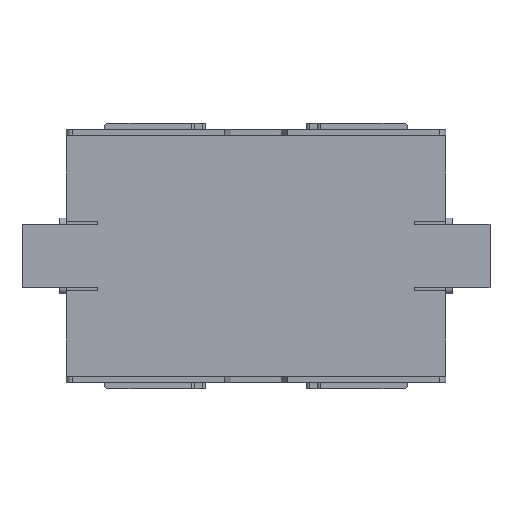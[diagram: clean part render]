
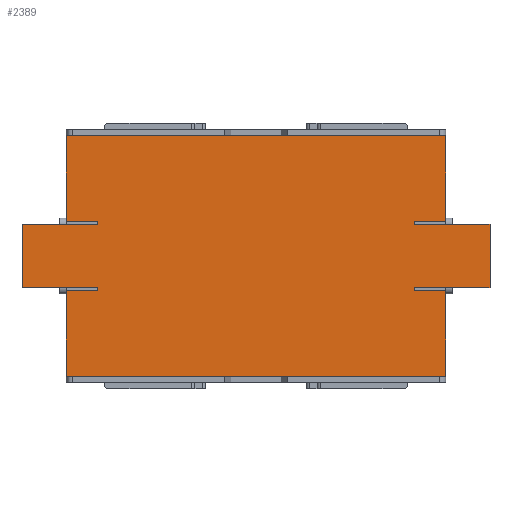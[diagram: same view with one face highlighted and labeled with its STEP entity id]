
A CAD part, front view. The second image highlights one B-rep face of the part: STEP entity #2389.
In plain terms, the highlighted planar face has unit normal (0, -1, 0).
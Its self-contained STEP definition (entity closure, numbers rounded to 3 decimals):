
#466=DIRECTION('',(0.,0.,1.));
#467=VECTOR('',#466,0.05);
#468=CARTESIAN_POINT('',(-2.5,-1.55,-0.55));
#469=LINE('',#468,#467);
#473=DIRECTION('',(1.,0.,0.));
#474=VECTOR('',#473,1.2);
#475=CARTESIAN_POINT('',(-3.7,-1.55,-0.5));
#476=LINE('',#475,#474);
#480=DIRECTION('',(0.,0.,-1.));
#481=VECTOR('',#480,1.);
#482=CARTESIAN_POINT('',(-3.7,-1.55,0.5));
#483=LINE('',#482,#481);
#487=DIRECTION('',(-1.,0.,0.));
#488=VECTOR('',#487,1.2);
#489=CARTESIAN_POINT('',(-2.5,-1.55,0.5));
#490=LINE('',#489,#488);
#494=DIRECTION('',(0.,0.,1.));
#495=VECTOR('',#494,0.05);
#496=CARTESIAN_POINT('',(-2.5,-1.55,0.5));
#497=LINE('',#496,#495);
#501=DIRECTION('',(1.,0.,0.));
#502=VECTOR('',#501,0.5);
#503=CARTESIAN_POINT('',(-3.,-1.55,0.55));
#504=LINE('',#503,#502);
#508=DIRECTION('',(0.,0.,1.));
#509=VECTOR('',#508,1.35);
#510=CARTESIAN_POINT('',(-3.,-1.55,0.55));
#511=LINE('',#510,#509);
#515=DIRECTION('',(1.,0.,0.));
#516=VECTOR('',#515,6.);
#517=CARTESIAN_POINT('',(-3.,-1.55,1.9));
#518=LINE('',#517,#516);
#522=DIRECTION('',(0.,0.,-1.));
#523=VECTOR('',#522,1.35);
#524=CARTESIAN_POINT('',(3.,-1.55,1.9));
#525=LINE('',#524,#523);
#529=DIRECTION('',(-1.,0.,0.));
#530=VECTOR('',#529,0.5);
#531=CARTESIAN_POINT('',(3.,-1.55,0.55));
#532=LINE('',#531,#530);
#536=DIRECTION('',(0.,0.,-1.));
#537=VECTOR('',#536,0.05);
#538=CARTESIAN_POINT('',(2.5,-1.55,0.55));
#539=LINE('',#538,#537);
#543=DIRECTION('',(-1.,0.,0.));
#544=VECTOR('',#543,1.2);
#545=CARTESIAN_POINT('',(3.7,-1.55,0.5));
#546=LINE('',#545,#544);
#550=DIRECTION('',(0.,0.,1.));
#551=VECTOR('',#550,1.);
#552=CARTESIAN_POINT('',(3.7,-1.55,-0.5));
#553=LINE('',#552,#551);
#557=DIRECTION('',(1.,0.,0.));
#558=VECTOR('',#557,1.2);
#559=CARTESIAN_POINT('',(2.5,-1.55,-0.5));
#560=LINE('',#559,#558);
#564=DIRECTION('',(0.,0.,-1.));
#565=VECTOR('',#564,0.05);
#566=CARTESIAN_POINT('',(2.5,-1.55,-0.5));
#567=LINE('',#566,#565);
#571=DIRECTION('',(-1.,0.,0.));
#572=VECTOR('',#571,0.5);
#573=CARTESIAN_POINT('',(3.,-1.55,-0.55));
#574=LINE('',#573,#572);
#578=DIRECTION('',(0.,0.,-1.));
#579=VECTOR('',#578,1.35);
#580=CARTESIAN_POINT('',(3.,-1.55,-0.55));
#581=LINE('',#580,#579);
#585=DIRECTION('',(-1.,0.,0.));
#586=VECTOR('',#585,6.);
#587=CARTESIAN_POINT('',(3.,-1.55,-1.9));
#588=LINE('',#587,#586);
#592=DIRECTION('',(0.,0.,1.));
#593=VECTOR('',#592,1.35);
#594=CARTESIAN_POINT('',(-3.,-1.55,-1.9));
#595=LINE('',#594,#593);
#599=DIRECTION('',(1.,0.,0.));
#600=VECTOR('',#599,0.5);
#601=CARTESIAN_POINT('',(-3.,-1.55,-0.55));
#602=LINE('',#601,#600);
#1730=CARTESIAN_POINT('',(3.,-1.55,-1.9));
#1731=CARTESIAN_POINT('',(-3.,-1.55,-1.9));
#1732=VERTEX_POINT('',#1730);
#1733=VERTEX_POINT('',#1731);
#1734=CARTESIAN_POINT('',(-3.,-1.55,1.9));
#1735=CARTESIAN_POINT('',(3.,-1.55,1.9));
#1736=VERTEX_POINT('',#1734);
#1737=VERTEX_POINT('',#1735);
#1742=CARTESIAN_POINT('',(3.,-1.55,0.55));
#1743=CARTESIAN_POINT('',(2.5,-1.55,0.55));
#1744=VERTEX_POINT('',#1742);
#1745=VERTEX_POINT('',#1743);
#1746=CARTESIAN_POINT('',(3.,-1.55,-0.55));
#1747=CARTESIAN_POINT('',(2.5,-1.55,-0.55));
#1748=VERTEX_POINT('',#1746);
#1749=VERTEX_POINT('',#1747);
#1758=CARTESIAN_POINT('',(3.7,-1.55,-0.5));
#1759=CARTESIAN_POINT('',(3.7,-1.55,0.5));
#1760=VERTEX_POINT('',#1758);
#1761=VERTEX_POINT('',#1759);
#1762=CARTESIAN_POINT('',(-3.7,-1.55,0.5));
#1763=CARTESIAN_POINT('',(-3.7,-1.55,-0.5));
#1764=VERTEX_POINT('',#1762);
#1765=VERTEX_POINT('',#1763);
#1774=CARTESIAN_POINT('',(2.5,-1.55,-0.5));
#1776=VERTEX_POINT('',#1774);
#1778=CARTESIAN_POINT('',(2.5,-1.55,0.5));
#1780=VERTEX_POINT('',#1778);
#1782=CARTESIAN_POINT('',(-2.5,-1.55,0.5));
#1783=VERTEX_POINT('',#1782);
#1784=CARTESIAN_POINT('',(-2.5,-1.55,-0.5));
#1785=VERTEX_POINT('',#1784);
#2010=CARTESIAN_POINT('',(-3.,-1.55,-0.55));
#2011=CARTESIAN_POINT('',(-2.5,-1.55,-0.55));
#2012=VERTEX_POINT('',#2010);
#2013=VERTEX_POINT('',#2011);
#2014=CARTESIAN_POINT('',(-3.,-1.55,0.55));
#2015=CARTESIAN_POINT('',(-2.5,-1.55,0.55));
#2016=VERTEX_POINT('',#2014);
#2017=VERTEX_POINT('',#2015);
#2351=CARTESIAN_POINT('',(0.,-1.55,0.));
#2352=DIRECTION('',(0.,1.,0.));
#2353=DIRECTION('',(1.,0.,0.));
#2354=AXIS2_PLACEMENT_3D('',#2351,#2352,#2353);
#2355=PLANE('',#2354);
#2357=ORIENTED_EDGE('',*,*,#2356,.T.);
#2359=ORIENTED_EDGE('',*,*,#2358,.F.);
#2361=ORIENTED_EDGE('',*,*,#2360,.F.);
#2363=ORIENTED_EDGE('',*,*,#2362,.F.);
#2365=ORIENTED_EDGE('',*,*,#2364,.T.);
#2367=ORIENTED_EDGE('',*,*,#2366,.F.);
#2368=ORIENTED_EDGE('',*,*,#2132,.T.);
#2370=ORIENTED_EDGE('',*,*,#2369,.T.);
#2371=ORIENTED_EDGE('',*,*,#2324,.T.);
#2372=ORIENTED_EDGE('',*,*,#2343,.T.);
#2373=ORIENTED_EDGE('',*,*,#2247,.T.);
#2375=ORIENTED_EDGE('',*,*,#2374,.F.);
#2377=ORIENTED_EDGE('',*,*,#2376,.F.);
#2378=ORIENTED_EDGE('',*,*,#2203,.F.);
#2379=ORIENTED_EDGE('',*,*,#2235,.T.);
#2381=ORIENTED_EDGE('',*,*,#2380,.F.);
#2382=ORIENTED_EDGE('',*,*,#2330,.T.);
#2383=ORIENTED_EDGE('',*,*,#2060,.T.);
#2384=ORIENTED_EDGE('',*,*,#2126,.T.);
#2386=ORIENTED_EDGE('',*,*,#2385,.T.);
#2387=EDGE_LOOP('',(#2357,#2359,#2361,#2363,#2365,#2367,#2368,#2370,#2371,#2372,
#2373,#2375,#2377,#2378,#2379,#2381,#2382,#2383,#2384,#2386));
#2388=FACE_OUTER_BOUND('',#2387,.F.);
#2060=EDGE_CURVE('',#1732,#1733,#588,.T.);
#2126=EDGE_CURVE('',#1733,#2012,#595,.T.);
#2132=EDGE_CURVE('',#2016,#1736,#511,.T.);
#2203=EDGE_CURVE('',#1776,#1760,#560,.T.);
#2235=EDGE_CURVE('',#1776,#1749,#567,.T.);
#2247=EDGE_CURVE('',#1745,#1780,#539,.T.);
#2324=EDGE_CURVE('',#1737,#1744,#525,.T.);
#2330=EDGE_CURVE('',#1748,#1732,#581,.T.);
#2343=EDGE_CURVE('',#1744,#1745,#532,.T.);
#2356=EDGE_CURVE('',#2013,#1785,#469,.T.);
#2358=EDGE_CURVE('',#1765,#1785,#476,.T.);
#2360=EDGE_CURVE('',#1764,#1765,#483,.T.);
#2362=EDGE_CURVE('',#1783,#1764,#490,.T.);
#2364=EDGE_CURVE('',#1783,#2017,#497,.T.);
#2366=EDGE_CURVE('',#2016,#2017,#504,.T.);
#2369=EDGE_CURVE('',#1736,#1737,#518,.T.);
#2374=EDGE_CURVE('',#1761,#1780,#546,.T.);
#2376=EDGE_CURVE('',#1760,#1761,#553,.T.);
#2380=EDGE_CURVE('',#1748,#1749,#574,.T.);
#2385=EDGE_CURVE('',#2012,#2013,#602,.T.);
#2389=ADVANCED_FACE('',(#2388),#2355,.F.);
